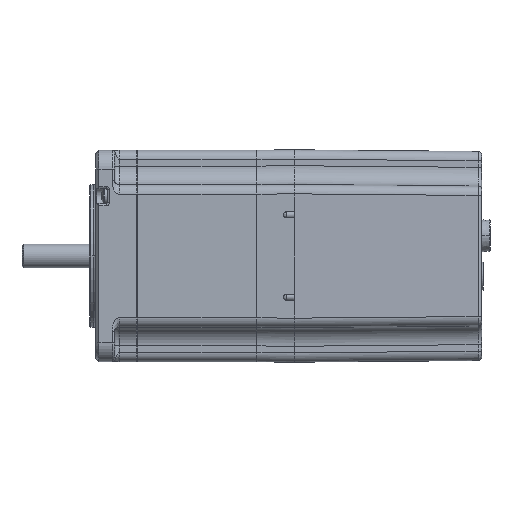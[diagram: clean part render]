
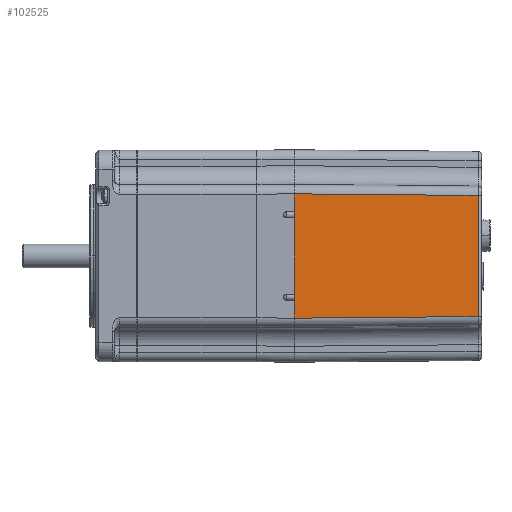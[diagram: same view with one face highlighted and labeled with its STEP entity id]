
A CAD part, front view. The second image highlights one B-rep face of the part: STEP entity #102525.
In plain terms, the highlighted planar face has unit normal (0.009, -1, 0) as drawn and (1, 0, -0.009) by its records, which use the part's own axes.
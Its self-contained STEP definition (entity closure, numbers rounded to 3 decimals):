
#46949=DIRECTION('',(0.,1.,0.));
#46950=VECTOR('',#46949,4.787);
#46951=CARTESIAN_POINT('',(28.337,-16.587,
-53.));
#46952=LINE('',#46951,#46950);
#46956=DIRECTION('',(0.,1.,0.));
#46957=VECTOR('',#46956,1.6);
#46958=CARTESIAN_POINT('',(28.337,-11.8,-53.));
#46959=LINE('',#46958,#46957);
#46963=DIRECTION('',(0.,1.,0.));
#46964=VECTOR('',#46963,20.4);
#46965=CARTESIAN_POINT('',(28.337,-10.2,-53.));
#46966=LINE('',#46965,#46964);
#46970=DIRECTION('',(0.,1.,0.));
#46971=VECTOR('',#46970,1.6);
#46972=CARTESIAN_POINT('',(28.337,10.2,-53.));
#46973=LINE('',#46972,#46971);
#46977=DIRECTION('',(0.,1.,0.));
#46978=VECTOR('',#46977,4.787);
#46979=CARTESIAN_POINT('',(28.337,11.8,-53.));
#46980=LINE('',#46979,#46978);
#46984=DIRECTION('',(-0.009,-0.009,-1.));
#46985=VECTOR('',#46984,49.012);
#46986=CARTESIAN_POINT('',(28.337,16.587,
-53.));
#46987=LINE('',#46986,#46985);
#46991=DIRECTION('',(0.009,-0.009,1.));
#46992=VECTOR('',#46991,49.012);
#46993=CARTESIAN_POINT('',(27.91,-16.16,
-102.009));
#46994=LINE('',#46993,#46992);
#47075=CARTESIAN_POINT('',(27.91,-16.16,
-102.009));
#47102=DIRECTION('',(0.,1.,0.));
#47103=VECTOR('',#47102,32.319);
#47104=CARTESIAN_POINT('',(27.91,-16.16,
-102.009));
#47105=LINE('',#47104,#47103);
#47136=CARTESIAN_POINT('',(27.91,16.16,
-102.009));
#52004=VERTEX_POINT('',#47136);
#52005=VERTEX_POINT('',#47075);
#55799=CARTESIAN_POINT('',(28.337,-16.587,
-53.));
#55800=CARTESIAN_POINT('',(28.337,-11.8,-53.));
#55801=VERTEX_POINT('',#55799);
#55802=VERTEX_POINT('',#55800);
#55803=CARTESIAN_POINT('',(28.337,-10.2,-53.));
#55804=CARTESIAN_POINT('',(28.337,10.2,-53.));
#55805=VERTEX_POINT('',#55803);
#55806=VERTEX_POINT('',#55804);
#55807=CARTESIAN_POINT('',(28.337,11.8,-53.));
#55808=CARTESIAN_POINT('',(28.337,16.587,
-53.));
#55809=VERTEX_POINT('',#55807);
#55810=VERTEX_POINT('',#55808);
#102504=CARTESIAN_POINT('',(28.123,0.,-77.504));
#102505=DIRECTION('',(1.,0.,-0.009));
#102506=DIRECTION('',(-0.009,0.,-1.));
#102507=AXIS2_PLACEMENT_3D('',#102504,#102505,#102506);
#102508=PLANE('',#102507);
#102510=ORIENTED_EDGE('',*,*,#102509,.T.);
#102511=ORIENTED_EDGE('',*,*,#102432,.T.);
#102513=ORIENTED_EDGE('',*,*,#102512,.T.);
#102514=ORIENTED_EDGE('',*,*,#102458,.T.);
#102516=ORIENTED_EDGE('',*,*,#102515,.T.);
#102518=ORIENTED_EDGE('',*,*,#102517,.T.);
#102520=ORIENTED_EDGE('',*,*,#102519,.F.);
#102522=ORIENTED_EDGE('',*,*,#102521,.T.);
#102523=EDGE_LOOP('',(#102510,#102511,#102513,#102514,#102516,#102518,#102520,
#102522));
#102524=FACE_OUTER_BOUND('',#102523,.F.);
#102432=EDGE_CURVE('',#55802,#55805,#46959,.T.);
#102458=EDGE_CURVE('',#55806,#55809,#46973,.T.);
#102509=EDGE_CURVE('',#55801,#55802,#46952,.T.);
#102512=EDGE_CURVE('',#55805,#55806,#46966,.T.);
#102515=EDGE_CURVE('',#55809,#55810,#46980,.T.);
#102517=EDGE_CURVE('',#55810,#52004,#46987,.T.);
#102519=EDGE_CURVE('',#52005,#52004,#47105,.T.);
#102521=EDGE_CURVE('',#52005,#55801,#46994,.T.);
#102525=ADVANCED_FACE('',(#102524),#102508,.T.);
